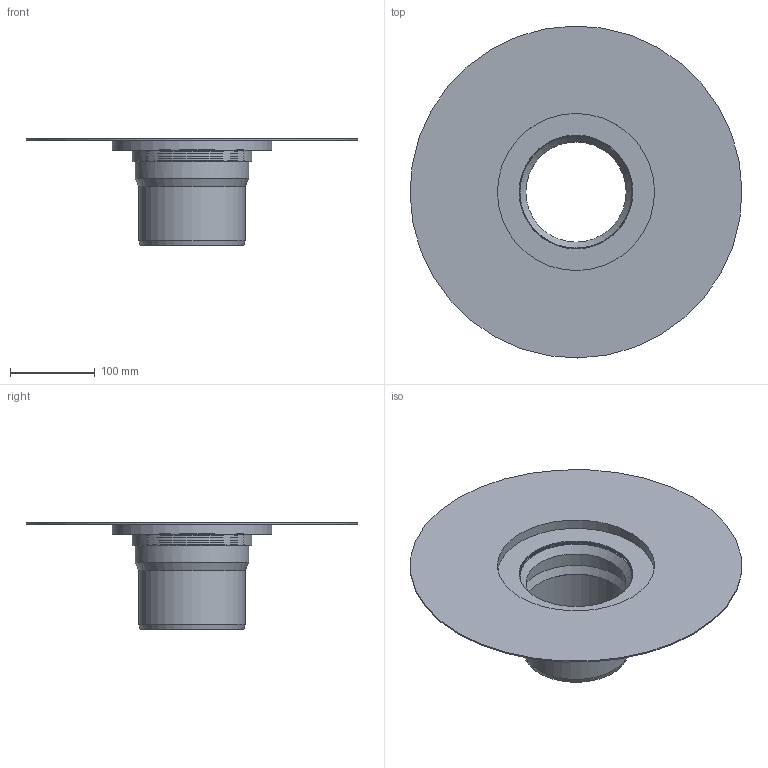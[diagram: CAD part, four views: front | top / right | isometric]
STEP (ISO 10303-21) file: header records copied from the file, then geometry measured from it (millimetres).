
FILE_DESCRIPTION(/* description */ (''),/* implementation_level */ '2;1');
FILE_NAME(/* name */ 'G:\WM_GmbH\Planerdaten\Work\EXPORT\Fertig zum Export\Bodenabl. u. Div.\stp\388101.stp',/* time_stamp */ '2017-06-27T10:29:21+02:00',/* author */ ('seihe2'),/* organization */ (''),/* preprocessor_version */ 'ST-DEVELOPER v15.2',/* originating_system */ 'Autodesk Inventor 2014',/* authorisation */ '');
FILE_SCHEMA (('AUTOMOTIVE_DESIGN { 1 0 10303 214 3 1 1 }'));
Length unit declared in the file: millimetre
Products named in the file (1): 388101
Bounding box: 390.98 x 390.98 x 125.22 mm (x, y, z)
Volume: 249811 mm3; surface area: 340615.9 mm2
Topology: 3 solids, 3 shells, 45 faces, 104 edges, 68 vertices
Faces by surface type: cylinder 16, cone 15, plane 9, bspline 4, torus 1
Full cylindrical faces by diameter (mm): 122.6 x1, 125 x1, 131 x1, 131.5 x1, 132 x1, 133.9 x1, 134 x2, 137 x3, 138.75 x1, 141.15 x1, 185 x1, 188 x1, 391 x1
Entity records: 1563 total; most frequent: CARTESIAN_POINT 684, DIRECTION 168, ORIENTED_EDGE 104, EDGE_LOOP 86, AXIS2_PLACEMENT_3D 82, EDGE_CURVE 52, VERTEX_POINT 48, STYLED_ITEM 48
